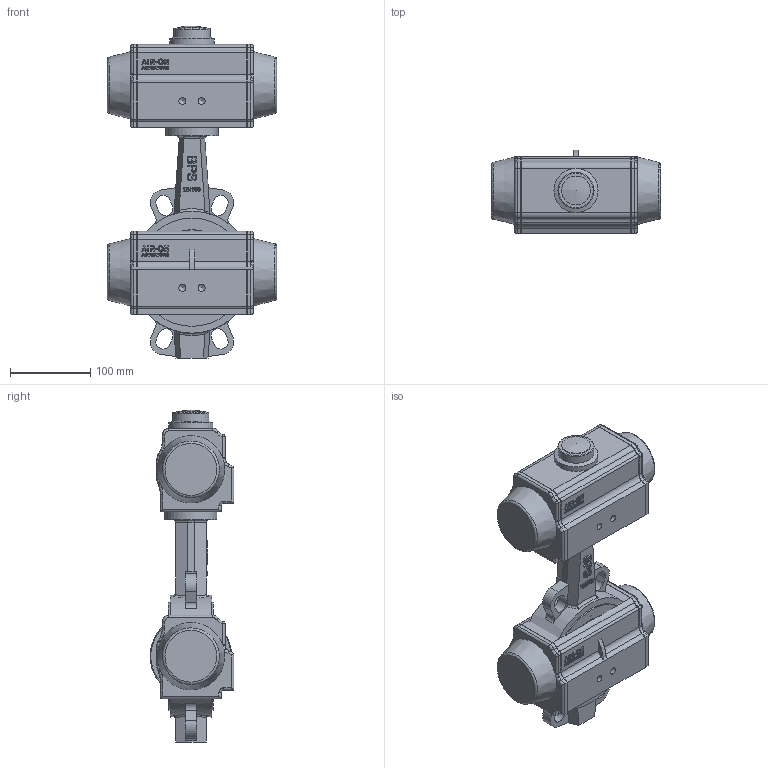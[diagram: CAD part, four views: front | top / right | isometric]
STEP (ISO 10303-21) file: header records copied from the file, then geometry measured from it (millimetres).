
FILE_DESCRIPTION( ( 'Unknown' ), '1' );
FILE_NAME( 'R:/ECCUA/ROOTSI BPS 3D vidinad/Poordklapid Wafer type/Butterfly valve(wafer) with pneumatic actuator BPS/STEP formaat/BPS 2303100P butterfly valve DN100.stp', 'Unknown', ( 'Unknown' ), ( 'Unknown' ), 'PSStep 10.1', 'Unknown', ' ' );
FILE_SCHEMA( ( 'AUTOMOTIVE_DESIGN { 1 0 10303 214 1 1 1 1 }' ) );
Length unit declared in the file: millimetre
Products named in the file (5): Assem1; Butterfly valve wafer type DN100 BPS; BPS 8300075DA-SR pneumatic actuator
Bounding box: 211 x 104.33 x 414 mm (x, y, z)
Volume: 5047529.9 mm3; surface area: 489888.8 mm2
Topology: 8 solids, 8 shells, 986 faces, 2494 edges, 1608 vertices
Faces by surface type: plane 326, extrusion 286, cylinder 212, bspline 68, torus 58, cone 30, sphere 6
Full cylindrical faces by diameter (mm): 4.917 x8, 6.647 x8, 7 x8, 8.566 x4, 36 x2, 45 x2, 55 x2, 65 x2, 100 x2, 135 x4, 152 x2
Entity records: 23499 total; most frequent: CARTESIAN_POINT 8345, ORIENTED_EDGE 2338, DIRECTION 1983, EDGE_CURVE 1169, VERTEX_POINT 786, VECTOR 725, AXIS2_PLACEMENT_3D 629, EDGE_LOOP 605
